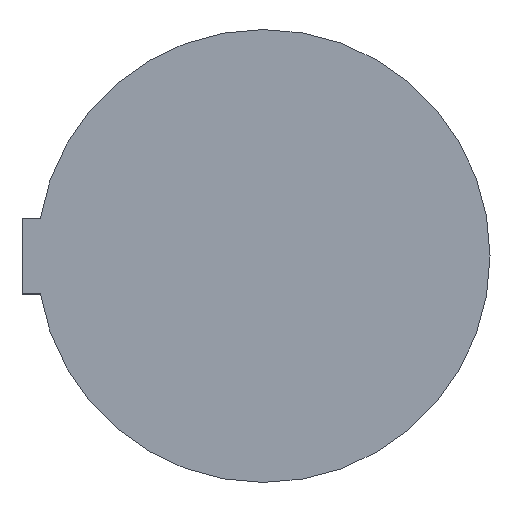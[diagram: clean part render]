
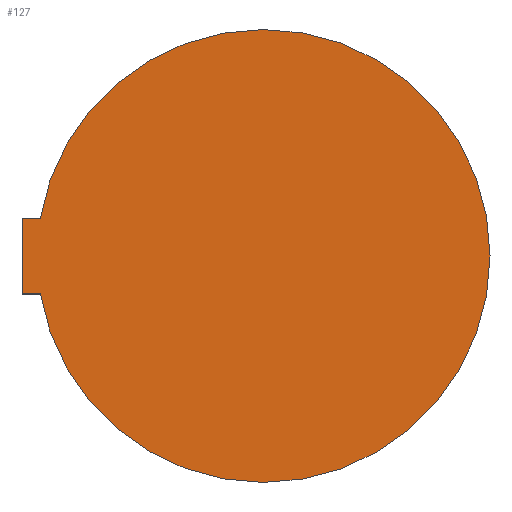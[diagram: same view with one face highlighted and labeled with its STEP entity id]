
A CAD part, top view. The second image highlights one B-rep face of the part: STEP entity #127.
In plain terms, the highlighted planar face has unit normal (0, 0, 1).
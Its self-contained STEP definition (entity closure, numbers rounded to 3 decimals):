
#18=LINE('',#317,#29);
#21=LINE('',#323,#32);
#25=LINE('',#330,#36);
#29=VECTOR('',#167,10.);
#32=VECTOR('',#172,10.);
#36=VECTOR('',#180,10.);
#41=PLANE('',#150);
#48=FACE_OUTER_BOUND('',#55,.T.);
#55=EDGE_LOOP('',(#112,#113,#114,#115));
#57=CIRCLE('',#143,75.);
#62=VERTEX_POINT('',#229);
#64=VERTEX_POINT('',#267);
#69=VERTEX_POINT('',#316);
#71=VERTEX_POINT('',#322);
#74=EDGE_CURVE('',#62,#64,#57,.T.);
#81=EDGE_CURVE('',#64,#69,#18,.T.);
#84=EDGE_CURVE('',#71,#69,#21,.T.);
#88=EDGE_CURVE('',#71,#62,#25,.T.);
#112=ORIENTED_EDGE('',*,*,#88,.F.);
#113=ORIENTED_EDGE('',*,*,#84,.T.);
#114=ORIENTED_EDGE('',*,*,#81,.F.);
#115=ORIENTED_EDGE('',*,*,#74,.F.);
#127=ADVANCED_FACE('',(#48),#41,.T.);
#143=AXIS2_PLACEMENT_3D('',#268,#154,#155);
#150=AXIS2_PLACEMENT_3D('',#329,#178,#179);
#154=DIRECTION('center_axis',(0.,0.,-1.));
#155=DIRECTION('ref_axis',(1.,0.,0.));
#167=DIRECTION('',(-1.,0.,0.));
#172=DIRECTION('',(0.,-1.,0.));
#178=DIRECTION('center_axis',(0.,0.,1.));
#179=DIRECTION('ref_axis',(1.,0.,0.));
#180=DIRECTION('',(1.,0.,0.));
#229=CARTESIAN_POINT('',(6.049,12.5,0.));
#267=CARTESIAN_POINT('',(6.049,-12.5,0.));
#268=CARTESIAN_POINT('Origin',(80.,0.,0.));
#316=CARTESIAN_POINT('',(0.,-12.5,0.));
#317=CARTESIAN_POINT('',(0.,-12.5,0.));
#322=CARTESIAN_POINT('',(0.,12.5,0.));
#323=CARTESIAN_POINT('',(0.,0.,0.));
#329=CARTESIAN_POINT('Origin',(0.,0.,0.));
#330=CARTESIAN_POINT('',(0.,12.5,0.));
